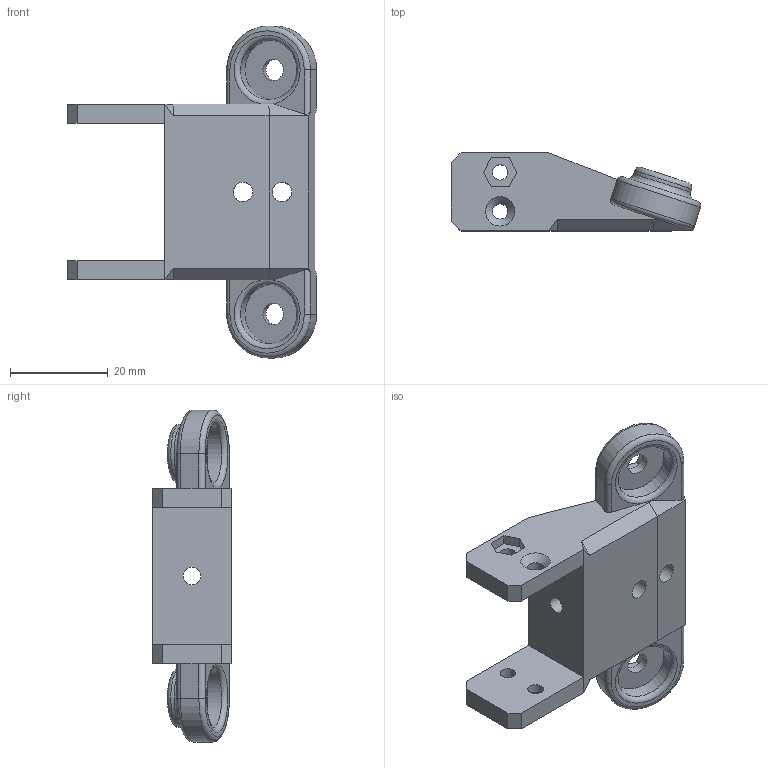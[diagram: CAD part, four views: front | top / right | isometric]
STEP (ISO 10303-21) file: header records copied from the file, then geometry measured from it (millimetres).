
FILE_DESCRIPTION(/* description */ (''),/* implementation_level */ '2;1');
FILE_NAME(/* name */ 'D:\3D печать\Мои проекты\Archy MK 2\STEP\MK3\наконечник плеча V3,1.stp',/* time_stamp */ '2019-08-16T22:59:12+06:00',/* author */ ('Пользователь'),/* organization */ (''),/* preprocessor_version */ 'ST-DEVELOPER v16.5',/* originating_system */ 'Autodesk Inventor 2017',/* authorisation */ '');
FILE_SCHEMA (('AUTOMOTIVE_DESIGN { 1 0 10303 214 3 1 1 }'));
Length unit declared in the file: millimetre
Products named in the file (1): наконечник \X2\043F
043B043504470430\X0\ V3,1
Bounding box: 51.08 x 16 x 68 mm (x, y, z)
Volume: 14947.9 mm3; surface area: 7395 mm2
Topology: 1 solids, 1 shells, 104 faces, 288 edges, 206 vertices
Faces by surface type: plane 67, cylinder 24, torus 10, cone 3
Full cylindrical faces by diameter (mm): 3.15 x4, 3.5 x1, 4 x2, 4.4 x2, 6 x1, 12.2 x4
Entity records: 3260 total; most frequent: CARTESIAN_POINT 643, DIRECTION 529, ORIENTED_EDGE 478, EDGE_CURVE 239, LINE 189, VECTOR 189, AXIS2_PLACEMENT_3D 170, VERTEX_POINT 166
